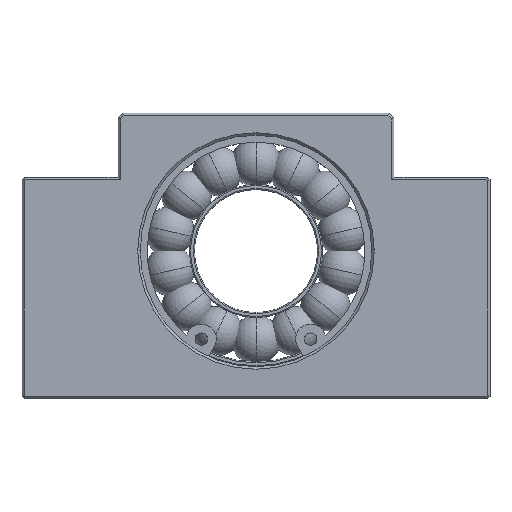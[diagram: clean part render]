
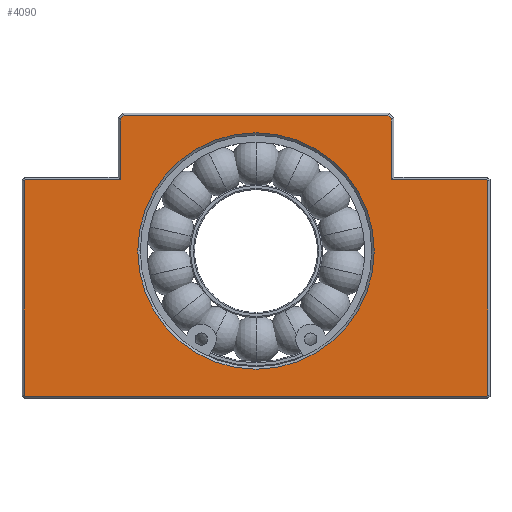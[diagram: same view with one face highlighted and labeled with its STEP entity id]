
A CAD part, top view. The second image highlights one B-rep face of the part: STEP entity #4090.
In plain terms, the highlighted planar face has unit normal (0, 0, 1).
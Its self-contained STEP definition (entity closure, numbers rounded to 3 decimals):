
#1399 = CARTESIAN_POINT ( 'NONE',  ( 71.5, 30., 22. ) ) ;
#1400 = DIRECTION ( 'NONE',  ( -1., 0., 0. ) ) ;
#1401 = DIRECTION ( 'NONE',  ( 0., 0., -1. ) ) ;
#1402 = CARTESIAN_POINT ( 'NONE',  ( 47.5, 30., 22. ) ) ;
#1403 = AXIS2_PLACEMENT_3D ( 'NONE', #1402, #1401, #1400 ) ;
#1404 = CIRCLE ( 'NONE', #1403, 24. ) ;
#1405 = CARTESIAN_POINT ( 'NONE',  ( 23.5, 30., 22. ) ) ;
#1482 = CARTESIAN_POINT ( 'NONE',  ( 75., 44.5, 22. ) ) ;
#1483 = CARTESIAN_POINT ( 'NONE',  ( 94.293, 44.5, 22. ) ) ;
#1484 = DIRECTION ( 'NONE',  ( -0.707, 0.707, 0. ) ) ;
#1485 = VECTOR ( 'NONE', #1484, 1000. ) ;
#1486 = CARTESIAN_POINT ( 'NONE',  ( 94.146, 44.646, 22. ) ) ;
#1487 = LINE ( 'NONE', #1486, #1485 ) ;
#1488 = CARTESIAN_POINT ( 'NONE',  ( 94.5, 44.293, 22. ) ) ;
#1489 = DIRECTION ( 'NONE',  ( 0., 1., 0. ) ) ;
#1490 = VECTOR ( 'NONE', #1489, 1000. ) ;
#1491 = CARTESIAN_POINT ( 'NONE',  ( 94.5, 45., 22. ) ) ;
#1492 = LINE ( 'NONE', #1491, #1490 ) ;
#1493 = CARTESIAN_POINT ( 'NONE',  ( 94.5, 0.707, 22. ) ) ;
#1494 = DIRECTION ( 'NONE',  ( 0.707, 0.707, 0. ) ) ;
#1495 = VECTOR ( 'NONE', #1494, 1000. ) ;
#1496 = CARTESIAN_POINT ( 'NONE',  ( 94.646, 0.854, 22. ) ) ;
#1497 = LINE ( 'NONE', #1496, #1495 ) ;
#1498 = CARTESIAN_POINT ( 'NONE',  ( 94.293, 0.5, 22. ) ) ;
#1499 = DIRECTION ( 'NONE',  ( 1., 0., 0. ) ) ;
#1500 = VECTOR ( 'NONE', #1499, 1000. ) ;
#1501 = CARTESIAN_POINT ( 'NONE',  ( 0., 0.5, 22. ) ) ;
#1502 = LINE ( 'NONE', #1501, #1500 ) ;
#1506 = CARTESIAN_POINT ( 'NONE',  ( 0.707, 0.5, 22. ) ) ;
#1538 = CARTESIAN_POINT ( 'NONE',  ( 0.354, 44.146, 22. ) ) ;
#1539 = LINE ( 'NONE', #1538, #1598 ) ;
#1540 = DIRECTION ( 'NONE',  ( 0., -1., 0. ) ) ;
#1541 = VECTOR ( 'NONE', #1540, 1000. ) ;
#1542 = CARTESIAN_POINT ( 'NONE',  ( 20., 45., 22. ) ) ;
#1543 = LINE ( 'NONE', #1542, #1541 ) ;
#1544 = CARTESIAN_POINT ( 'NONE',  ( 20., 56.793, 22. ) ) ;
#1545 = DIRECTION ( 'NONE',  ( -0.707, -0.707, 0. ) ) ;
#1546 = VECTOR ( 'NONE', #1545, 1000. ) ;
#1547 = CARTESIAN_POINT ( 'NONE',  ( 19.854, 56.646, 22. ) ) ;
#1548 = LINE ( 'NONE', #1547, #1546 ) ;
#1549 = CARTESIAN_POINT ( 'NONE',  ( 20.707, 57.5, 22. ) ) ;
#1550 = DIRECTION ( 'NONE',  ( -1., 0., 0. ) ) ;
#1551 = VECTOR ( 'NONE', #1550, 1000. ) ;
#1552 = CARTESIAN_POINT ( 'NONE',  ( 0., 57.5, 22. ) ) ;
#1553 = LINE ( 'NONE', #1552, #1551 ) ;
#1554 = CARTESIAN_POINT ( 'NONE',  ( 74.293, 57.5, 22. ) ) ;
#1555 = DIRECTION ( 'NONE',  ( -0.707, 0.707, 0. ) ) ;
#1556 = VECTOR ( 'NONE', #1555, 1000. ) ;
#1557 = CARTESIAN_POINT ( 'NONE',  ( 74.146, 57.646, 22. ) ) ;
#1558 = LINE ( 'NONE', #1557, #1556 ) ;
#1559 = CARTESIAN_POINT ( 'NONE',  ( 75., 56.793, 22. ) ) ;
#1560 = DIRECTION ( 'NONE',  ( 0., 1., 0. ) ) ;
#1561 = VECTOR ( 'NONE', #1560, 1000. ) ;
#1562 = CARTESIAN_POINT ( 'NONE',  ( 75., 45., 22. ) ) ;
#1563 = LINE ( 'NONE', #1562, #1561 ) ;
#1587 = DIRECTION ( 'NONE',  ( 0.707, -0.707, 0. ) ) ;
#1588 = VECTOR ( 'NONE', #1587, 1000. ) ;
#1589 = CARTESIAN_POINT ( 'NONE',  ( 0.854, 0.354, 22. ) ) ;
#1590 = LINE ( 'NONE', #1589, #1588 ) ;
#1591 = CARTESIAN_POINT ( 'NONE',  ( 0.5, 0.707, 22. ) ) ;
#1592 = DIRECTION ( 'NONE',  ( 0., -1., 0. ) ) ;
#1593 = VECTOR ( 'NONE', #1592, 1000. ) ;
#1594 = CARTESIAN_POINT ( 'NONE',  ( 0.5, 45., 22. ) ) ;
#1595 = LINE ( 'NONE', #1594, #1593 ) ;
#1596 = CARTESIAN_POINT ( 'NONE',  ( 0.5, 44.293, 22. ) ) ;
#1597 = DIRECTION ( 'NONE',  ( -0.707, -0.707, 0. ) ) ;
#1598 = VECTOR ( 'NONE', #1597, 1000. ) ;
#1756 = CARTESIAN_POINT ( 'NONE',  ( 0., 45., 22. ) ) ;
#1757 = PLANE ( 'NONE',  #1758 ) ;
#1758 = AXIS2_PLACEMENT_3D ( 'NONE', #1756, #1817, #1816 ) ;
#1759 = FACE_OUTER_BOUND ( 'NONE', #4094, .T. ) ;
#1760 = FACE_BOUND ( 'NONE', #4091, .T. ) ;
#1816 = DIRECTION ( 'NONE',  ( -1., 0., 0. ) ) ;
#1817 = DIRECTION ( 'NONE',  ( 0., 0., -1. ) ) ;
#1819 = AXIS2_PLACEMENT_3D ( 'NONE', #1879, #1878, #1877 ) ;
#1820 = CIRCLE ( 'NONE', #1819, 24. ) ;
#1871 = CARTESIAN_POINT ( 'NONE',  ( 0.707, 44.5, 22. ) ) ;
#1872 = CARTESIAN_POINT ( 'NONE',  ( 20., 44.5, 22. ) ) ;
#1873 = DIRECTION ( 'NONE',  ( -1., 0., 0. ) ) ;
#1874 = VECTOR ( 'NONE', #1873, 1000. ) ;
#1875 = CARTESIAN_POINT ( 'NONE',  ( 0., 44.5, 22. ) ) ;
#1876 = LINE ( 'NONE', #1875, #1874 ) ;
#1877 = DIRECTION ( 'NONE',  ( -1., 0., 0. ) ) ;
#1878 = DIRECTION ( 'NONE',  ( 0., 0., -1. ) ) ;
#1879 = CARTESIAN_POINT ( 'NONE',  ( 47.5, 30., 22. ) ) ;
#1979 = DIRECTION ( 'NONE',  ( -1., 0., 0. ) ) ;
#1980 = VECTOR ( 'NONE', #1979, 1000. ) ;
#1981 = CARTESIAN_POINT ( 'NONE',  ( 0., 44.5, 22. ) ) ;
#1982 = LINE ( 'NONE', #1981, #1980 ) ;
#3884 = VERTEX_POINT ( 'NONE', #1405 ) ;
#3886 = EDGE_CURVE ( 'NONE', #3887, #3884, #1404, .T. ) ;
#3887 = VERTEX_POINT ( 'NONE', #1399 ) ;
#3930 = VERTEX_POINT ( 'NONE', #1506 ) ;
#3931 = ORIENTED_EDGE ( 'NONE', *, *, #3932, .T. ) ;
#3932 = EDGE_CURVE ( 'NONE', #3930, #3933, #1502, .T. ) ;
#3933 = VERTEX_POINT ( 'NONE', #1498 ) ;
#3934 = ORIENTED_EDGE ( 'NONE', *, *, #3935, .T. ) ;
#3935 = EDGE_CURVE ( 'NONE', #3933, #3936, #1497, .T. ) ;
#3936 = VERTEX_POINT ( 'NONE', #1493 ) ;
#3937 = ORIENTED_EDGE ( 'NONE', *, *, #3938, .T. ) ;
#3938 = EDGE_CURVE ( 'NONE', #3936, #3939, #1492, .T. ) ;
#3939 = VERTEX_POINT ( 'NONE', #1488 ) ;
#3940 = ORIENTED_EDGE ( 'NONE', *, *, #3941, .T. ) ;
#3941 = EDGE_CURVE ( 'NONE', #3939, #3942, #1487, .T. ) ;
#3942 = VERTEX_POINT ( 'NONE', #1483 ) ;
#3943 = ORIENTED_EDGE ( 'NONE', *, *, #4207, .T. ) ;
#3944 = VERTEX_POINT ( 'NONE', #1482 ) ;
#3967 = ORIENTED_EDGE ( 'NONE', *, *, #3968, .T. ) ;
#3968 = EDGE_CURVE ( 'NONE', #3944, #3969, #1563, .T. ) ;
#3969 = VERTEX_POINT ( 'NONE', #1559 ) ;
#3970 = ORIENTED_EDGE ( 'NONE', *, *, #3971, .T. ) ;
#3971 = EDGE_CURVE ( 'NONE', #3969, #3972, #1558, .T. ) ;
#3972 = VERTEX_POINT ( 'NONE', #1554 ) ;
#3973 = ORIENTED_EDGE ( 'NONE', *, *, #3974, .T. ) ;
#3974 = EDGE_CURVE ( 'NONE', #3972, #3975, #1553, .T. ) ;
#3975 = VERTEX_POINT ( 'NONE', #1549 ) ;
#3976 = ORIENTED_EDGE ( 'NONE', *, *, #3977, .T. ) ;
#3977 = EDGE_CURVE ( 'NONE', #3975, #3978, #1548, .T. ) ;
#3978 = VERTEX_POINT ( 'NONE', #1544 ) ;
#3979 = ORIENTED_EDGE ( 'NONE', *, *, #3980, .T. ) ;
#3980 = EDGE_CURVE ( 'NONE', #3978, #4129, #1543, .T. ) ;
#3981 = ORIENTED_EDGE ( 'NONE', *, *, #3982, .T. ) ;
#3982 = EDGE_CURVE ( 'NONE', #4130, #3983, #1539, .T. ) ;
#3983 = VERTEX_POINT ( 'NONE', #1596 ) ;
#3984 = ORIENTED_EDGE ( 'NONE', *, *, #3985, .T. ) ;
#3985 = EDGE_CURVE ( 'NONE', #3983, #3986, #1595, .T. ) ;
#3986 = VERTEX_POINT ( 'NONE', #1591 ) ;
#3987 = ORIENTED_EDGE ( 'NONE', *, *, #3988, .T. ) ;
#3988 = EDGE_CURVE ( 'NONE', #3986, #3930, #1590, .T. ) ;
#4090 = ADVANCED_FACE ( 'NONE', ( #1760, #1759 ), #1757, .F. ) ;
#4091 = EDGE_LOOP ( 'NONE', ( #4092, #4093 ) ) ;
#4092 = ORIENTED_EDGE ( 'NONE', *, *, #3886, .T. ) ;
#4093 = ORIENTED_EDGE ( 'NONE', *, *, #4126, .T. ) ;
#4094 = EDGE_LOOP ( 'NONE', ( #4127, #3981, #3984, #3987, #3931, #3934, #3937, #3940, #3943, #3967, #3970, #3973, #3976, #3979 ) ) ;
#4126 = EDGE_CURVE ( 'NONE', #3884, #3887, #1820, .T. ) ;
#4127 = ORIENTED_EDGE ( 'NONE', *, *, #4128, .T. ) ;
#4128 = EDGE_CURVE ( 'NONE', #4129, #4130, #1876, .T. ) ;
#4129 = VERTEX_POINT ( 'NONE', #1872 ) ;
#4130 = VERTEX_POINT ( 'NONE', #1871 ) ;
#4207 = EDGE_CURVE ( 'NONE', #3942, #3944, #1982, .T. ) ;
